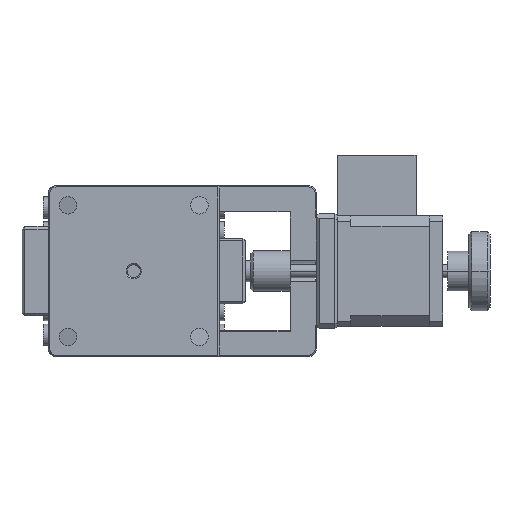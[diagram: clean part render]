
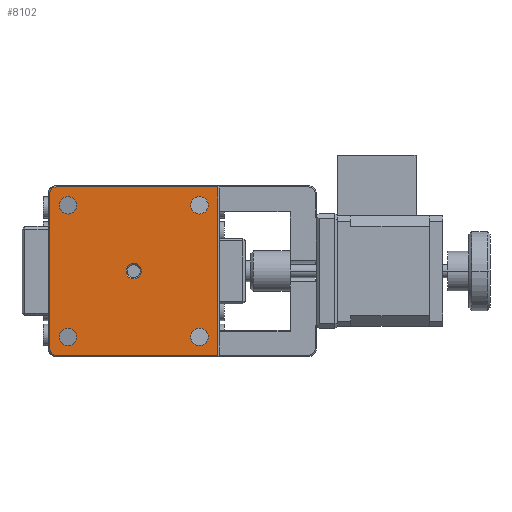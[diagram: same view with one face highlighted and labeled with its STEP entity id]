
A CAD part, front view. The second image highlights one B-rep face of the part: STEP entity #8102.
In plain terms, the highlighted planar face has unit normal (0, -1, 0).
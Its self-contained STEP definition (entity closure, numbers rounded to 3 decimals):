
#130 = ORIENTED_EDGE ( 'NONE', *, *, #19542, .T. ) ;
#167 = EDGE_CURVE ( 'NONE', #11673, #9787, #17045, .T. ) ;
#220 = EDGE_CURVE ( 'NONE', #19339, #14705, #11030, .T. ) ;
#252 = CARTESIAN_POINT ( 'NONE',  ( -29.5, -75., 0.5 ) ) ;
#559 = CIRCLE ( 'NONE', #19276, 3.3 ) ;
#564 = EDGE_CURVE ( 'NONE', #17020, #3281, #19229, .T. ) ;
#626 = DIRECTION ( 'NONE',  ( 0., 0., 1. ) ) ;
#729 = DIRECTION ( 'NONE',  ( 0., 0., 1. ) ) ;
#811 = EDGE_LOOP ( 'NONE', ( #12754, #130 ) ) ;
#886 = VECTOR ( 'NONE', #16372, 1000. ) ;
#908 = EDGE_LOOP ( 'NONE', ( #17681, #5439 ) ) ;
#1051 = EDGE_CURVE ( 'NONE', #1862, #18048, #20022, .T. ) ;
#1303 = CARTESIAN_POINT ( 'NONE',  ( 25., -75., 7.5 ) ) ;
#1782 = VERTEX_POINT ( 'NONE', #13986 ) ;
#1805 = EDGE_LOOP ( 'NONE', ( #9343, #15793 ) ) ;
#1844 = CARTESIAN_POINT ( 'NONE',  ( -25., -75., 57.5 ) ) ;
#1862 = VERTEX_POINT ( 'NONE', #8025 ) ;
#1898 = DIRECTION ( 'NONE',  ( 0., 0., 1. ) ) ;
#1936 = VECTOR ( 'NONE', #2301, 1000. ) ;
#2226 = ORIENTED_EDGE ( 'NONE', *, *, #9906, .F. ) ;
#2284 = DIRECTION ( 'NONE',  ( 0., 1., 0. ) ) ;
#2301 = DIRECTION ( 'NONE',  ( 0., 0., -1. ) ) ;
#2484 = AXIS2_PLACEMENT_3D ( 'NONE', #12777, #12314, #14922 ) ;
#3226 = ORIENTED_EDGE ( 'NONE', *, *, #19019, .F. ) ;
#3281 = VERTEX_POINT ( 'NONE', #14886 ) ;
#3388 = DIRECTION ( 'NONE',  ( 0., 0., 1. ) ) ;
#3687 = EDGE_LOOP ( 'NONE', ( #9970, #3226, #11336, #14695, #10613, #2226 ) ) ;
#3707 = CARTESIAN_POINT ( 'NONE',  ( 25., -75., 57.5 ) ) ;
#4266 = DIRECTION ( 'NONE',  ( 0., 0., -1. ) ) ;
#4471 = EDGE_CURVE ( 'NONE', #7463, #12316, #559, .T. ) ;
#4501 = CIRCLE ( 'NONE', #10099, 2.5 ) ;
#4671 = CARTESIAN_POINT ( 'NONE',  ( 25., -75., 60.8 ) ) ;
#4749 = CIRCLE ( 'NONE', #13597, 3.3 ) ;
#4863 = CIRCLE ( 'NONE', #8797, 3.3 ) ;
#5188 = CARTESIAN_POINT ( 'NONE',  ( -32., -75., 65. ) ) ;
#5200 = DIRECTION ( 'NONE',  ( 0., -1., 0. ) ) ;
#5406 = CARTESIAN_POINT ( 'NONE',  ( 25., -75., 54.2 ) ) ;
#5418 = AXIS2_PLACEMENT_3D ( 'NONE', #5968, #15321, #8948 ) ;
#5439 = ORIENTED_EDGE ( 'NONE', *, *, #15173, .T. ) ;
#5465 = DIRECTION ( 'NONE',  ( 0., 0., 1. ) ) ;
#5690 = CARTESIAN_POINT ( 'NONE',  ( 25., -75., 10.8 ) ) ;
#5848 = VECTOR ( 'NONE', #13741, 1000. ) ;
#5928 = AXIS2_PLACEMENT_3D ( 'NONE', #13004, #5200, #15148 ) ;
#5968 = CARTESIAN_POINT ( 'NONE',  ( -32.5, -75., 65. ) ) ;
#6075 = CARTESIAN_POINT ( 'NONE',  ( -25., -75., 60.8 ) ) ;
#6157 = CARTESIAN_POINT ( 'NONE',  ( 25., -75., 57.5 ) ) ;
#6164 = CARTESIAN_POINT ( 'NONE',  ( 25., -75., 7.5 ) ) ;
#6354 = AXIS2_PLACEMENT_3D ( 'NONE', #19700, #11593, #14968 ) ;
#6393 = VERTEX_POINT ( 'NONE', #17520 ) ;
#6616 = DIRECTION ( 'NONE',  ( 0., 0., 1. ) ) ;
#6628 = LINE ( 'NONE', #9812, #1936 ) ;
#6688 = DIRECTION ( 'NONE',  ( 0., 0., 1. ) ) ;
#7094 = CARTESIAN_POINT ( 'NONE',  ( -29.5, -75., 62. ) ) ;
#7181 = LINE ( 'NONE', #10568, #5848 ) ;
#7350 = DIRECTION ( 'NONE',  ( 0., 1., 0. ) ) ;
#7463 = VERTEX_POINT ( 'NONE', #4671 ) ;
#7464 = CARTESIAN_POINT ( 'NONE',  ( -25., -75., 4.2 ) ) ;
#7551 = VECTOR ( 'NONE', #1898, 1000. ) ;
#7795 = DIRECTION ( 'NONE',  ( 0., 1., 0. ) ) ;
#7956 = CARTESIAN_POINT ( 'NONE',  ( 0., -75., 35.425 ) ) ;
#8025 = CARTESIAN_POINT ( 'NONE',  ( 0., -75., 29.575 ) ) ;
#8061 = CARTESIAN_POINT ( 'NONE',  ( -29.5, -75., 64.5 ) ) ;
#8072 = AXIS2_PLACEMENT_3D ( 'NONE', #1303, #10290, #5465 ) ;
#8102 = ADVANCED_FACE ( 'NONE', ( #12723, #13870, #10695, #8101, #15528, #13978 ), #10587, .F. ) ;
#8101 = FACE_BOUND ( 'NONE', #811, .T. ) ;
#8175 = ORIENTED_EDGE ( 'NONE', *, *, #13508, .T. ) ;
#8368 = LINE ( 'NONE', #5188, #7551 ) ;
#8636 = EDGE_CURVE ( 'NONE', #18048, #1862, #19728, .T. ) ;
#8797 = AXIS2_PLACEMENT_3D ( 'NONE', #1844, #11416, #3388 ) ;
#8948 = DIRECTION ( 'NONE',  ( 0., 0., 1. ) ) ;
#9343 = ORIENTED_EDGE ( 'NONE', *, *, #220, .T. ) ;
#9423 = CARTESIAN_POINT ( 'NONE',  ( 25., -75., 4.2 ) ) ;
#9530 = CIRCLE ( 'NONE', #17465, 3.3 ) ;
#9766 = VERTEX_POINT ( 'NONE', #8061 ) ;
#9787 = VERTEX_POINT ( 'NONE', #9913 ) ;
#9800 = DIRECTION ( 'NONE',  ( 0., 1., 0. ) ) ;
#9812 = CARTESIAN_POINT ( 'NONE',  ( 32., -75., 65. ) ) ;
#9906 = EDGE_CURVE ( 'NONE', #9787, #6393, #8368, .T. ) ;
#9913 = CARTESIAN_POINT ( 'NONE',  ( -32., -75., 3. ) ) ;
#9970 = ORIENTED_EDGE ( 'NONE', *, *, #167, .F. ) ;
#10099 = AXIS2_PLACEMENT_3D ( 'NONE', #7094, #2284, #729 ) ;
#10290 = DIRECTION ( 'NONE',  ( 0., 1., 0. ) ) ;
#10345 = DIRECTION ( 'NONE',  ( 0., 0., 1. ) ) ;
#10359 = AXIS2_PLACEMENT_3D ( 'NONE', #13612, #7350, #10345 ) ;
#10568 = CARTESIAN_POINT ( 'NONE',  ( -32.5, -75., 0.5 ) ) ;
#10587 = PLANE ( 'NONE',  #5418 ) ;
#10613 = ORIENTED_EDGE ( 'NONE', *, *, #18529, .F. ) ;
#10695 = FACE_BOUND ( 'NONE', #908, .T. ) ;
#10883 = CIRCLE ( 'NONE', #19375, 3.3 ) ;
#11030 = CIRCLE ( 'NONE', #8072, 3.3 ) ;
#11336 = ORIENTED_EDGE ( 'NONE', *, *, #12739, .F. ) ;
#11416 = DIRECTION ( 'NONE',  ( 0., 1., 0. ) ) ;
#11593 = DIRECTION ( 'NONE',  ( 0., 1., 0. ) ) ;
#11673 = VERTEX_POINT ( 'NONE', #252 ) ;
#12314 = DIRECTION ( 'NONE',  ( 0., 1., 0. ) ) ;
#12316 = VERTEX_POINT ( 'NONE', #5406 ) ;
#12433 = DIRECTION ( 'NONE',  ( 0., 1., 0. ) ) ;
#12723 = FACE_BOUND ( 'NONE', #14903, .T. ) ;
#12739 = EDGE_CURVE ( 'NONE', #18511, #15764, #6628, .T. ) ;
#12754 = ORIENTED_EDGE ( 'NONE', *, *, #564, .T. ) ;
#12777 = CARTESIAN_POINT ( 'NONE',  ( -29.5, -75., 3. ) ) ;
#12880 = CARTESIAN_POINT ( 'NONE',  ( 32., -75., 0.5 ) ) ;
#13004 = CARTESIAN_POINT ( 'NONE',  ( 0., -75., 32.5 ) ) ;
#13172 = LINE ( 'NONE', #14920, #886 ) ;
#13508 = EDGE_CURVE ( 'NONE', #1782, #19895, #14565, .T. ) ;
#13522 = CARTESIAN_POINT ( 'NONE',  ( 0., -75., 32.5 ) ) ;
#13597 = AXIS2_PLACEMENT_3D ( 'NONE', #3707, #16261, #626 ) ;
#13612 = CARTESIAN_POINT ( 'NONE',  ( -25., -75., 57.5 ) ) ;
#13618 = DIRECTION ( 'NONE',  ( 0., -1., 0. ) ) ;
#13741 = DIRECTION ( 'NONE',  ( -1., 0., 0. ) ) ;
#13870 = FACE_BOUND ( 'NONE', #1805, .T. ) ;
#13978 = FACE_BOUND ( 'NONE', #14790, .T. ) ;
#13986 = CARTESIAN_POINT ( 'NONE',  ( -25., -75., 10.8 ) ) ;
#14565 = CIRCLE ( 'NONE', #6354, 3.3 ) ;
#14695 = ORIENTED_EDGE ( 'NONE', *, *, #18520, .F. ) ;
#14705 = VERTEX_POINT ( 'NONE', #9423 ) ;
#14790 = EDGE_LOOP ( 'NONE', ( #16625, #16795 ) ) ;
#14824 = CARTESIAN_POINT ( 'NONE',  ( 32., -75., 64.5 ) ) ;
#14886 = CARTESIAN_POINT ( 'NONE',  ( -25., -75., 54.2 ) ) ;
#14903 = EDGE_LOOP ( 'NONE', ( #8175, #19919 ) ) ;
#14920 = CARTESIAN_POINT ( 'NONE',  ( -32.5, -75., 64.5 ) ) ;
#14922 = DIRECTION ( 'NONE',  ( 0., 0., 1. ) ) ;
#14968 = DIRECTION ( 'NONE',  ( 0., 0., 1. ) ) ;
#15148 = DIRECTION ( 'NONE',  ( 0., 0., -1. ) ) ;
#15173 = EDGE_CURVE ( 'NONE', #12316, #7463, #4749, .T. ) ;
#15321 = DIRECTION ( 'NONE',  ( 0., 1., 0. ) ) ;
#15337 = EDGE_CURVE ( 'NONE', #14705, #19339, #10883, .T. ) ;
#15443 = AXIS2_PLACEMENT_3D ( 'NONE', #13522, #13618, #4266 ) ;
#15528 = FACE_OUTER_BOUND ( 'NONE', #3687, .T. ) ;
#15764 = VERTEX_POINT ( 'NONE', #12880 ) ;
#15780 = EDGE_CURVE ( 'NONE', #19895, #1782, #9530, .T. ) ;
#15793 = ORIENTED_EDGE ( 'NONE', *, *, #15337, .T. ) ;
#16078 = CARTESIAN_POINT ( 'NONE',  ( -25., -75., 7.5 ) ) ;
#16261 = DIRECTION ( 'NONE',  ( 0., 1., 0. ) ) ;
#16372 = DIRECTION ( 'NONE',  ( 1., 0., 0. ) ) ;
#16625 = ORIENTED_EDGE ( 'NONE', *, *, #1051, .F. ) ;
#16795 = ORIENTED_EDGE ( 'NONE', *, *, #8636, .F. ) ;
#17020 = VERTEX_POINT ( 'NONE', #6075 ) ;
#17045 = CIRCLE ( 'NONE', #2484, 2.5 ) ;
#17465 = AXIS2_PLACEMENT_3D ( 'NONE', #16078, #9800, #6616 ) ;
#17520 = CARTESIAN_POINT ( 'NONE',  ( -32., -75., 62. ) ) ;
#17681 = ORIENTED_EDGE ( 'NONE', *, *, #4471, .T. ) ;
#18048 = VERTEX_POINT ( 'NONE', #7956 ) ;
#18511 = VERTEX_POINT ( 'NONE', #14824 ) ;
#18520 = EDGE_CURVE ( 'NONE', #9766, #18511, #13172, .T. ) ;
#18529 = EDGE_CURVE ( 'NONE', #6393, #9766, #4501, .T. ) ;
#19019 = EDGE_CURVE ( 'NONE', #15764, #11673, #7181, .T. ) ;
#19229 = CIRCLE ( 'NONE', #10359, 3.3 ) ;
#19276 = AXIS2_PLACEMENT_3D ( 'NONE', #6157, #7795, #20234 ) ;
#19339 = VERTEX_POINT ( 'NONE', #5690 ) ;
#19375 = AXIS2_PLACEMENT_3D ( 'NONE', #6164, #12433, #6688 ) ;
#19542 = EDGE_CURVE ( 'NONE', #3281, #17020, #4863, .T. ) ;
#19700 = CARTESIAN_POINT ( 'NONE',  ( -25., -75., 7.5 ) ) ;
#19728 = CIRCLE ( 'NONE', #5928, 2.925 ) ;
#19895 = VERTEX_POINT ( 'NONE', #7464 ) ;
#19919 = ORIENTED_EDGE ( 'NONE', *, *, #15780, .T. ) ;
#20022 = CIRCLE ( 'NONE', #15443, 2.925 ) ;
#20234 = DIRECTION ( 'NONE',  ( 0., 0., 1. ) ) ;
